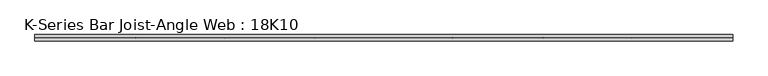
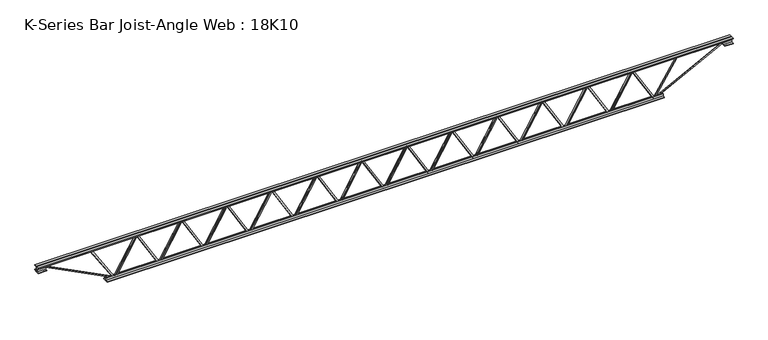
"""IFC4 building model written with IfcOpenShell, lengths in millimetres: beam geometry, K-Series Bar Joist-Angle Web : 18K10."""

from ifc_helpers import new_model, si_unit, frame, origin, place, context, project, spatial, polyline, outline, extrude, faceted_brep, source, transform, mapped, element, save


def k_series_bar_joist_angle_web_18k10_34fe76ac(model_context):
    return source(origin(), model_context, "Body", "SolidModel", [
        extrude(outline(polyline([(-4.75, 4.7625001), (-4.75, 0.0), (-17.45, 0.0), (-17.45, 4.7625001), (-4.75, 4.7625001)])), frame((2639.2791751, 0.0, -190.4), z_axis=(-0.5078245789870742, 0.0, 0.8614605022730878), x_axis=(0.0, -1.0, 0.0)), (0.0, 0.0, 1.0), 442.0399995),
        extrude(outline(polyline([(-225.325, 2671.6590909), (-206.275, 2671.6590909), (-206.275, 2670.7509781), (225.325, 2416.3259781), (225.325, 2398.1840909), (206.275, 2398.1840909), (206.275, 2405.4422037), (-225.325, 2659.8672037), (-225.325, 2671.6590909)])), frame((0.0, 0.0, 0.0), z_axis=(0.0, 1.0, 0.0), x_axis=(0.0, 0.0, 1.0)), (0.0, 0.0, 1.0), 4.75),
        faceted_brep([(2137.4090909, 0.0, -206.275), (2137.4090909, 0.0, -225.325), (2137.4090909, -4.75, -225.325), (2137.4090909, -4.75, -206.275), (2138.3172037, 0.0, -206.275), (2392.7422037, 0.0, 225.325), (2410.8840909, 0.0, 225.325), (2410.8840909, 0.0, 206.275), (2403.6259781, 0.0, 206.275), (2149.2009781, 0.0, -225.325), (2149.2009781, -4.75, -225.325), (2169.7890067, -4.75, -190.4), (2165.686301, -4.75, -187.9814854), (2390.1650777, -4.75, 192.8185146), (2394.2677833, -4.75, 190.4), (2403.6259781, -4.75, 206.275), (2410.8840909, -4.75, 206.275), (2410.8840909, -4.75, 225.325), (2392.7422037, -4.75, 225.325), (2138.3172037, -4.75, -206.275), (2394.2677833, -17.4625, 190.4), (2169.7890067, -17.4625, -190.4), (2165.686301, -17.4625, -187.9814854), (2390.1650777, -17.4625, 192.8185146)], [[[0, 1, 2, 3]], [[1, 0, 4, 5, 6, 7, 8, 9]], [[2, 1, 9, 10]], [[3, 2, 10, 11, 12, 13, 14, 15, 16, 17, 18, 19]], [[0, 3, 19, 4]], [[9, 8, 15, 14, 20, 21, 11, 10]], [[5, 4, 19, 18]], [[7, 6, 17, 16]], [[8, 7, 16, 15]], [[6, 5, 18, 17]], [[21, 22, 12, 11]], [[20, 14, 13, 23]], [[22, 21, 20, 23]], [[12, 22, 23, 13]]]),
        extrude(outline(polyline([(-4.75, 4.7625), (-4.75, 0.0), (-17.45, 0.0), (-17.45, 4.7625), (-4.75, 4.7625)])), frame((2104.9382661, 0.0, -190.4), z_axis=(-0.5078245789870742, 0.0, 0.8614605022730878), x_axis=(0.0, -1.0, 0.0)), (0.0, 0.0, 1.0), 442.0399995),
        extrude(outline(polyline([(-225.325, 2137.3181818), (-206.275, 2137.3181818), (-206.275, 2136.410069), (225.325, 1881.985069), (225.325, 1863.8431818), (206.275, 1863.8431818), (206.275, 1871.1012946), (-225.325, 2125.5262946), (-225.325, 2137.3181818)])), frame((0.0, 0.0, 0.0), z_axis=(0.0, 1.0, 0.0), x_axis=(0.0, 0.0, 1.0)), (0.0, 0.0, 1.0), 4.75),
        faceted_brep([(1603.0681818, 0.0, -206.275), (1603.0681818, 0.0, -225.325), (1603.0681818, -4.75, -225.325), (1603.0681818, -4.75, -206.275), (1603.9762946, 0.0, -206.275), (1858.4012946, 0.0, 225.325), (1876.5431818, 0.0, 225.325), (1876.5431818, 0.0, 206.275), (1869.285069, 0.0, 206.275), (1614.860069, 0.0, -225.325), (1614.860069, -4.75, -225.325), (1635.4480976, -4.75, -190.4), (1631.3453919, -4.75, -187.9814854), (1855.8241686, -4.75, 192.8185146), (1859.9268742, -4.75, 190.4), (1869.285069, -4.75, 206.275), (1876.5431818, -4.75, 206.275), (1876.5431818, -4.75, 225.325), (1858.4012946, -4.75, 225.325), (1603.9762946, -4.75, -206.275), (1859.9268742, -17.4625, 190.4), (1635.4480976, -17.4625, -190.4), (1631.3453919, -17.4625, -187.9814854), (1855.8241686, -17.4625, 192.8185146)], [[[0, 1, 2, 3]], [[1, 0, 4, 5, 6, 7, 8, 9]], [[2, 1, 9, 10]], [[3, 2, 10, 11, 12, 13, 14, 15, 16, 17, 18, 19]], [[0, 3, 19, 4]], [[9, 8, 15, 14, 20, 21, 11, 10]], [[5, 4, 19, 18]], [[7, 6, 17, 16]], [[8, 7, 16, 15]], [[6, 5, 18, 17]], [[21, 22, 12, 11]], [[20, 14, 13, 23]], [[22, 21, 20, 23]], [[12, 22, 23, 13]]]),
        extrude(outline(polyline([(-4.75, 4.7625), (-4.75, 0.0), (-17.45, 0.0), (-17.45, 4.7625), (-4.75, 4.7625)])), frame((1570.597357, 0.0, -190.4), z_axis=(-0.5078245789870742, 0.0, 0.8614605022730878), x_axis=(0.0, -1.0, 0.0)), (0.0, 0.0, 1.0), 442.0399995),
        extrude(outline(polyline([(-225.325, 1602.9772727), (-206.275, 1602.9772727), (-206.275, 1602.0691599), (225.325, 1347.6441599), (225.325, 1329.5022727), (206.275, 1329.5022727), (206.275, 1336.7603855), (-225.325, 1591.1853855), (-225.325, 1602.9772727)])), frame((0.0, 0.0, 0.0), z_axis=(0.0, 1.0, 0.0), x_axis=(0.0, 0.0, 1.0)), (0.0, 0.0, 1.0), 4.75),
        faceted_brep([(1068.7272727, 0.0, -206.275), (1068.7272727, 0.0, -225.325), (1068.7272727, -4.75, -225.325), (1068.7272727, -4.75, -206.275), (1069.6353855, 0.0, -206.275), (1324.0603855, 0.0, 225.325), (1342.2022727, 0.0, 225.325), (1342.2022727, 0.0, 206.275), (1334.9441599, 0.0, 206.275), (1080.5191599, 0.0, -225.325), (1080.5191599, -4.75, -225.325), (1101.1071885, -4.75, -190.4), (1097.0044828, -4.75, -187.9814854), (1321.4832595, -4.75, 192.8185146), (1325.5859651, -4.75, 190.4), (1334.9441599, -4.75, 206.275), (1342.2022727, -4.75, 206.275), (1342.2022727, -4.75, 225.325), (1324.0603855, -4.75, 225.325), (1069.6353855, -4.75, -206.275), (1325.5859651, -17.4625, 190.4), (1101.1071885, -17.4625, -190.4), (1097.0044828, -17.4625, -187.9814854), (1321.4832595, -17.4625, 192.8185146)], [[[0, 1, 2, 3]], [[1, 0, 4, 5, 6, 7, 8, 9]], [[2, 1, 9, 10]], [[3, 2, 10, 11, 12, 13, 14, 15, 16, 17, 18, 19]], [[0, 3, 19, 4]], [[9, 8, 15, 14, 20, 21, 11, 10]], [[5, 4, 19, 18]], [[7, 6, 17, 16]], [[8, 7, 16, 15]], [[6, 5, 18, 17]], [[21, 22, 12, 11]], [[20, 14, 13, 23]], [[22, 21, 20, 23]], [[12, 22, 23, 13]]]),
        extrude(outline(polyline([(-4.75, 4.7625), (-4.75, 0.0), (-17.45, 0.0), (-17.45, 4.7625), (-4.75, 4.7625)])), frame((1036.2564479, 0.0, -190.4), z_axis=(-0.5078245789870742, 0.0, 0.8614605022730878), x_axis=(0.0, -1.0, 0.0)), (0.0, 0.0, 1.0), 442.0399995),
        extrude(outline(polyline([(-225.325, 1068.6363636), (-206.275, 1068.6363636), (-206.275, 1067.7282508), (225.325, 813.3032508), (225.325, 795.1613636), (206.275, 795.1613636), (206.275, 802.4194764), (-225.325, 1056.8444764), (-225.325, 1068.6363636)])), frame((0.0, 0.0, 0.0), z_axis=(0.0, 1.0, 0.0), x_axis=(0.0, 0.0, 1.0)), (0.0, 0.0, 1.0), 4.75),
        faceted_brep([(534.3863636, 0.0, -206.275), (534.3863636, 0.0, -225.325), (534.3863636, -4.75, -225.325), (534.3863636, -4.75, -206.275), (535.2944764, 0.0, -206.275), (789.7194764, 0.0, 225.325), (807.8613636, 0.0, 225.325), (807.8613636, 0.0, 206.275), (800.6032508, 0.0, 206.275), (546.1782508, 0.0, -225.325), (546.1782508, -4.75, -225.325), (566.7662794, -4.75, -190.4), (562.6635738, -4.75, -187.9814854), (787.1423504, -4.75, 192.8185146), (791.245056, -4.75, 190.4), (800.6032508, -4.75, 206.275), (807.8613636, -4.75, 206.275), (807.8613636, -4.75, 225.325), (789.7194764, -4.75, 225.325), (535.2944764, -4.75, -206.275), (791.245056, -17.4625, 190.4), (566.7662794, -17.4625, -190.4), (562.6635738, -17.4625, -187.9814854), (787.1423504, -17.4625, 192.8185146)], [[[0, 1, 2, 3]], [[1, 0, 4, 5, 6, 7, 8, 9]], [[2, 1, 9, 10]], [[3, 2, 10, 11, 12, 13, 14, 15, 16, 17, 18, 19]], [[0, 3, 19, 4]], [[9, 8, 15, 14, 20, 21, 11, 10]], [[5, 4, 19, 18]], [[7, 6, 17, 16]], [[8, 7, 16, 15]], [[6, 5, 18, 17]], [[21, 22, 12, 11]], [[20, 14, 13, 23]], [[22, 21, 20, 23]], [[12, 22, 23, 13]]]),
        extrude(outline(polyline([(-4.75, 4.7625), (-4.75, 0.0), (-17.45, 0.0), (-17.45, 4.7625), (-4.75, 4.7625)])), frame((501.9155388, 0.0, -190.4), z_axis=(-0.5078245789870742, 0.0, 0.8614605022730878), x_axis=(0.0, -1.0, 0.0)), (0.0, 0.0, 1.0), 442.0399995),
        extrude(outline(polyline([(-225.325, 534.2954545), (-206.275, 534.2954545), (-206.275, 533.3873418), (225.325, 278.9623418), (225.325, 260.8204545), (206.275, 260.8204545), (206.275, 268.0785673), (-225.325, 522.5035673), (-225.325, 534.2954545)])), frame((0.0, 0.0, 0.0), z_axis=(0.0, 1.0, 0.0), x_axis=(0.0, 0.0, 1.0)), (0.0, 0.0, 1.0), 4.75),
        faceted_brep([(0.0454545, 0.0, -206.275), (0.0454545, 0.0, -225.325), (0.0454545, -4.75, -225.325), (0.0454545, -4.75, -206.275), (0.9535673, 0.0, -206.275), (255.3785673, 0.0, 225.325), (273.5204545, 0.0, 225.325), (273.5204545, 0.0, 206.275), (266.2623418, 0.0, 206.275), (11.8373418, 0.0, -225.325), (11.8373418, -4.75, -225.325), (32.4253703, -4.75, -190.4), (28.3226647, -4.75, -187.9814854), (252.8014413, -4.75, 192.8185146), (256.904147, -4.75, 190.4), (266.2623418, -4.75, 206.275), (273.5204545, -4.75, 206.275), (273.5204545, -4.75, 225.325), (255.3785673, -4.75, 225.325), (0.9535673, -4.75, -206.275), (256.904147, -17.4625, 190.4), (32.4253703, -17.4625, -190.4), (28.3226647, -17.4625, -187.9814854), (252.8014413, -17.4625, 192.8185146)], [[[0, 1, 2, 3]], [[1, 0, 4, 5, 6, 7, 8, 9]], [[2, 1, 9, 10]], [[3, 2, 10, 11, 12, 13, 14, 15, 16, 17, 18, 19]], [[0, 3, 19, 4]], [[9, 8, 15, 14, 20, 21, 11, 10]], [[5, 4, 19, 18]], [[7, 6, 17, 16]], [[8, 7, 16, 15]], [[6, 5, 18, 17]], [[21, 22, 12, 11]], [[20, 14, 13, 23]], [[22, 21, 20, 23]], [[12, 22, 23, 13]]]),
        extrude(outline(polyline([(-4.75, 4.7625), (-4.75, 0.0), (-17.45, 0.0), (-17.45, 4.7625), (-4.75, 4.7625)])), frame((-32.4253703, 0.0, -190.4), z_axis=(-0.5078245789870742, 0.0, 0.8614605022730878), x_axis=(0.0, -1.0, 0.0)), (0.0, 0.0, 1.0), 442.0399995),
        extrude(outline(polyline([(-225.325, -0.0454545), (-206.275, -0.0454545), (-206.275, -0.9535673), (225.325, -255.3785673), (225.325, -273.5204545), (206.275, -273.5204545), (206.275, -266.2623418), (-225.325, -11.8373418), (-225.325, -0.0454545)])), frame((0.0, 0.0, 0.0), z_axis=(0.0, 1.0, 0.0), x_axis=(0.0, 0.0, 1.0)), (0.0, 0.0, 1.0), 4.75),
        faceted_brep([(-534.2954545, 0.0, -206.275), (-534.2954545, 0.0, -225.325), (-534.2954545, -4.75, -225.325), (-534.2954545, -4.75, -206.275), (-533.3873418, 0.0, -206.275), (-278.9623418, 0.0, 225.325), (-260.8204545, 0.0, 225.325), (-260.8204545, 0.0, 206.275), (-268.0785673, 0.0, 206.275), (-522.5035673, 0.0, -225.325), (-522.5035673, -4.75, -225.325), (-501.9155388, -4.75, -190.4), (-506.0182444, -4.75, -187.9814854), (-281.5394678, -4.75, 192.8185146), (-277.4367621, -4.75, 190.4), (-268.0785673, -4.75, 206.275), (-260.8204545, -4.75, 206.275), (-260.8204545, -4.75, 225.325), (-278.9623418, -4.75, 225.325), (-533.3873418, -4.75, -206.275), (-277.4367621, -17.4625, 190.4), (-501.9155388, -17.4625, -190.4), (-506.0182444, -17.4625, -187.9814854), (-281.5394678, -17.4625, 192.8185146)], [[[0, 1, 2, 3]], [[1, 0, 4, 5, 6, 7, 8, 9]], [[2, 1, 9, 10]], [[3, 2, 10, 11, 12, 13, 14, 15, 16, 17, 18, 19]], [[0, 3, 19, 4]], [[9, 8, 15, 14, 20, 21, 11, 10]], [[5, 4, 19, 18]], [[7, 6, 17, 16]], [[8, 7, 16, 15]], [[6, 5, 18, 17]], [[21, 22, 12, 11]], [[20, 14, 13, 23]], [[22, 21, 20, 23]], [[12, 22, 23, 13]]]),
        extrude(outline(polyline([(-4.75, 4.7625), (-4.75, 0.0), (-17.45, 0.0), (-17.45, 4.7625), (-4.75, 4.7625)])), frame((-566.7662794, 0.0, -190.4), z_axis=(-0.5078245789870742, 0.0, 0.8614605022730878), x_axis=(0.0, -1.0, 0.0)), (0.0, 0.0, 1.0), 442.0399995),
        extrude(outline(polyline([(-225.325, -534.3863636), (-206.275, -534.3863636), (-206.275, -535.2944764), (225.325, -789.7194764), (225.325, -807.8613636), (206.275, -807.8613636), (206.275, -800.6032508), (-225.325, -546.1782508), (-225.325, -534.3863636)])), frame((0.0, 0.0, 0.0), z_axis=(0.0, 1.0, 0.0), x_axis=(0.0, 0.0, 1.0)), (0.0, 0.0, 1.0), 4.75),
        faceted_brep([(-1068.6363636, 0.0, -206.275), (-1068.6363636, 0.0, -225.325), (-1068.6363636, -4.75, -225.325), (-1068.6363636, -4.75, -206.275), (-1067.7282508, 0.0, -206.275), (-813.3032508, 0.0, 225.325), (-795.1613636, 0.0, 225.325), (-795.1613636, 0.0, 206.275), (-802.4194764, 0.0, 206.275), (-1056.8444764, 0.0, -225.325), (-1056.8444764, -4.75, -225.325), (-1036.2564479, -4.75, -190.4), (-1040.3591535, -4.75, -187.9814854), (-815.8803769, -4.75, 192.8185146), (-811.7776712, -4.75, 190.4), (-802.4194764, -4.75, 206.275), (-795.1613636, -4.75, 206.275), (-795.1613636, -4.75, 225.325), (-813.3032508, -4.75, 225.325), (-1067.7282508, -4.75, -206.275), (-811.7776712, -17.4625, 190.4), (-1036.2564479, -17.4625, -190.4), (-1040.3591535, -17.4625, -187.9814854), (-815.8803769, -17.4625, 192.8185146)], [[[0, 1, 2, 3]], [[1, 0, 4, 5, 6, 7, 8, 9]], [[2, 1, 9, 10]], [[3, 2, 10, 11, 12, 13, 14, 15, 16, 17, 18, 19]], [[0, 3, 19, 4]], [[9, 8, 15, 14, 20, 21, 11, 10]], [[5, 4, 19, 18]], [[7, 6, 17, 16]], [[8, 7, 16, 15]], [[6, 5, 18, 17]], [[21, 22, 12, 11]], [[20, 14, 13, 23]], [[22, 21, 20, 23]], [[12, 22, 23, 13]]]),
        extrude(outline(polyline([(-4.75, 4.7625001), (-4.75, 0.0), (-17.45, 0.0), (-17.45, 4.7625001), (-4.75, 4.7625001)])), frame((-1101.1071885, 0.0, -190.4), z_axis=(-0.5078245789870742, 0.0, 0.8614605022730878), x_axis=(0.0, -1.0, 0.0)), (0.0, 0.0, 1.0), 442.0399995),
        extrude(outline(polyline([(-225.325, -1068.7272727), (-206.275, -1068.7272727), (-206.275, -1069.6353855), (225.325, -1324.0603855), (225.325, -1342.2022727), (206.275, -1342.2022727), (206.275, -1334.9441599), (-225.325, -1080.5191599), (-225.325, -1068.7272727)])), frame((0.0, 0.0, 0.0), z_axis=(0.0, 1.0, 0.0), x_axis=(0.0, 0.0, 1.0)), (0.0, 0.0, 1.0), 4.75),
        faceted_brep([(-1602.9772727, 0.0, -206.275), (-1602.9772727, 0.0, -225.325), (-1602.9772727, -4.75, -225.325), (-1602.9772727, -4.75, -206.275), (-1602.0691599, 0.0, -206.275), (-1347.6441599, 0.0, 225.325), (-1329.5022727, 0.0, 225.325), (-1329.5022727, 0.0, 206.275), (-1336.7603855, 0.0, 206.275), (-1591.1853855, 0.0, -225.325), (-1591.1853855, -4.75, -225.325), (-1570.597357, -4.75, -190.4), (-1574.7000626, -4.75, -187.9814854), (-1350.221286, -4.75, 192.8185146), (-1346.1185803, -4.75, 190.4), (-1336.7603855, -4.75, 206.275), (-1329.5022727, -4.75, 206.275), (-1329.5022727, -4.75, 225.325), (-1347.6441599, -4.75, 225.325), (-1602.0691599, -4.75, -206.275), (-1346.1185803, -17.4625, 190.4), (-1570.597357, -17.4625, -190.4), (-1574.7000626, -17.4625, -187.9814854), (-1350.221286, -17.4625, 192.8185146)], [[[0, 1, 2, 3]], [[1, 0, 4, 5, 6, 7, 8, 9]], [[2, 1, 9, 10]], [[3, 2, 10, 11, 12, 13, 14, 15, 16, 17, 18, 19]], [[0, 3, 19, 4]], [[9, 8, 15, 14, 20, 21, 11, 10]], [[5, 4, 19, 18]], [[7, 6, 17, 16]], [[8, 7, 16, 15]], [[6, 5, 18, 17]], [[21, 22, 12, 11]], [[20, 14, 13, 23]], [[22, 21, 20, 23]], [[12, 22, 23, 13]]]),
        extrude(outline(polyline([(-4.75, 4.7625001), (-4.75, 0.0), (-17.45, 0.0), (-17.45, 4.7625001), (-4.75, 4.7625001)])), frame((-1635.4480976, 0.0, -190.4), z_axis=(-0.5078245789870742, 0.0, 0.8614605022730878), x_axis=(0.0, -1.0, 0.0)), (0.0, 0.0, 1.0), 442.0399995),
        extrude(outline(polyline([(-225.325, -1603.0681818), (-206.275, -1603.0681818), (-206.275, -1603.9762946), (225.325, -1858.4012946), (225.325, -1876.5431818), (206.275, -1876.5431818), (206.275, -1869.285069), (-225.325, -1614.860069), (-225.325, -1603.0681818)])), frame((0.0, 0.0, 0.0), z_axis=(0.0, 1.0, 0.0), x_axis=(0.0, 0.0, 1.0)), (0.0, 0.0, 1.0), 4.75),
        faceted_brep([(-2137.3181818, 0.0, -206.275), (-2137.3181818, 0.0, -225.325), (-2137.3181818, -4.75, -225.325), (-2137.3181818, -4.75, -206.275), (-2136.410069, 0.0, -206.275), (-1881.985069, 0.0, 225.325), (-1863.8431818, 0.0, 225.325), (-1863.8431818, 0.0, 206.275), (-1871.1012946, 0.0, 206.275), (-2125.5262946, 0.0, -225.325), (-2125.5262946, -4.75, -225.325), (-2104.9382661, -4.75, -190.4), (-2109.0409717, -4.75, -187.9814854), (-1884.5621951, -4.75, 192.8185146), (-1880.4594894, -4.75, 190.4), (-1871.1012946, -4.75, 206.275), (-1863.8431818, -4.75, 206.275), (-1863.8431818, -4.75, 225.325), (-1881.985069, -4.75, 225.325), (-2136.410069, -4.75, -206.275), (-1880.4594894, -17.4625, 190.4), (-2104.9382661, -17.4625, -190.4), (-2109.0409717, -17.4625, -187.9814854), (-1884.5621951, -17.4625, 192.8185146)], [[[0, 1, 2, 3]], [[1, 0, 4, 5, 6, 7, 8, 9]], [[2, 1, 9, 10]], [[3, 2, 10, 11, 12, 13, 14, 15, 16, 17, 18, 19]], [[0, 3, 19, 4]], [[9, 8, 15, 14, 20, 21, 11, 10]], [[5, 4, 19, 18]], [[7, 6, 17, 16]], [[8, 7, 16, 15]], [[6, 5, 18, 17]], [[21, 22, 12, 11]], [[20, 14, 13, 23]], [[22, 21, 20, 23]], [[12, 22, 23, 13]]]),
        extrude(outline(polyline([(-4.75, 4.7625001), (-4.75, 0.0), (-17.45, 0.0), (-17.45, 4.7625001), (-4.75, 4.7625001)])), frame((-2169.7890067, 0.0, -190.4), z_axis=(-0.5078245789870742, 0.0, 0.8614605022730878), x_axis=(0.0, -1.0, 0.0)), (0.0, 0.0, 1.0), 442.0399995),
        extrude(outline(polyline([(-225.325, -2137.4090909), (-206.275, -2137.4090909), (-206.275, -2138.3172037), (225.325, -2392.7422037), (225.325, -2410.8840909), (206.275, -2410.8840909), (206.275, -2403.6259781), (-225.325, -2149.2009781), (-225.325, -2137.4090909)])), frame((0.0, 0.0, 0.0), z_axis=(0.0, 1.0, 0.0), x_axis=(0.0, 0.0, 1.0)), (0.0, 0.0, 1.0), 4.75),
        faceted_brep([(-2671.6590909, 0.0, -206.275), (-2671.6590909, 0.0, -225.325), (-2671.6590909, -4.75, -225.325), (-2671.6590909, -4.75, -206.275), (-2670.7509781, 0.0, -206.275), (-2416.3259781, 0.0, 225.325), (-2398.1840909, 0.0, 225.325), (-2398.1840909, 0.0, 206.275), (-2405.4422037, 0.0, 206.275), (-2659.8672037, 0.0, -225.325), (-2659.8672037, -4.75, -225.325), (-2639.2791751, -4.75, -190.4), (-2643.3818808, -4.75, -187.9814854), (-2418.9031041, -4.75, 192.8185146), (-2414.8003985, -4.75, 190.4), (-2405.4422037, -4.75, 206.275), (-2398.1840909, -4.75, 206.275), (-2398.1840909, -4.75, 225.325), (-2416.3259781, -4.75, 225.325), (-2670.7509781, -4.75, -206.275), (-2414.8003985, -17.4625, 190.4), (-2639.2791751, -17.4625, -190.4), (-2643.3818808, -17.4625, -187.9814854), (-2418.9031041, -17.4625, 192.8185146)], [[[0, 1, 2, 3]], [[1, 0, 4, 5, 6, 7, 8, 9]], [[2, 1, 9, 10]], [[3, 2, 10, 11, 12, 13, 14, 15, 16, 17, 18, 19]], [[0, 3, 19, 4]], [[9, 8, 15, 14, 20, 21, 11, 10]], [[5, 4, 19, 18]], [[7, 6, 17, 16]], [[8, 7, 16, 15]], [[6, 5, 18, 17]], [[21, 22, 12, 11]], [[20, 14, 13, 23]], [[22, 21, 20, 23]], [[12, 22, 23, 13]]]),
        extrude(outline(polyline([(-4.75, 4.7625001), (-4.75, 0.0), (-17.45, 0.0), (-17.45, 4.7625001), (-4.75, 4.7625001)])), frame((3173.6200842, 0.0, -190.4), z_axis=(-0.5078245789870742, 0.0, 0.8614605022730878), x_axis=(0.0, -1.0, 0.0)), (0.0, 0.0, 1.0), 442.0399995),
        extrude(outline(polyline([(-225.325, 3206.0), (-206.275, 3206.0), (-206.275, 3205.0918872), (225.325, 2950.6668872), (225.325, 2932.525), (206.275, 2932.525), (206.275, 2939.7831128), (-225.325, 3194.2081128), (-225.325, 3206.0)])), frame((0.0, 0.0, 0.0), z_axis=(0.0, 1.0, 0.0), x_axis=(0.0, 0.0, 1.0)), (0.0, 0.0, 1.0), 4.75),
        faceted_brep([(2671.75, 0.0, -206.275), (2671.75, 0.0, -225.325), (2671.75, -4.75, -225.325), (2671.75, -4.75, -206.275), (2672.6581128, 0.0, -206.275), (2927.0831128, 0.0, 225.325), (2945.225, 0.0, 225.325), (2945.225, 0.0, 206.275), (2937.9668872, 0.0, 206.275), (2683.5418872, 0.0, -225.325), (2683.5418872, -4.75, -225.325), (2704.1299158, -4.75, -190.4), (2700.0272101, -4.75, -187.9814854), (2924.5059868, -4.75, 192.8185146), (2928.6086924, -4.75, 190.4), (2937.9668872, -4.75, 206.275), (2945.225, -4.75, 206.275), (2945.225, -4.75, 225.325), (2927.0831128, -4.75, 225.325), (2672.6581128, -4.75, -206.275), (2928.6086924, -17.4625, 190.4), (2704.1299158, -17.4625, -190.4), (2700.0272101, -17.4625, -187.9814854), (2924.5059868, -17.4625, 192.8185146)], [[[0, 1, 2, 3]], [[1, 0, 4, 5, 6, 7, 8, 9]], [[2, 1, 9, 10]], [[3, 2, 10, 11, 12, 13, 14, 15, 16, 17, 18, 19]], [[0, 3, 19, 4]], [[9, 8, 15, 14, 20, 21, 11, 10]], [[5, 4, 19, 18]], [[7, 6, 17, 16]], [[8, 7, 16, 15]], [[6, 5, 18, 17]], [[21, 22, 12, 11]], [[20, 14, 13, 23]], [[22, 21, 20, 23]], [[12, 22, 23, 13]]]),
        extrude(outline(polyline([(-4.75, 4.7625001), (-4.75, 0.0), (-17.45, 0.0), (-17.45, 4.7625001), (-4.75, 4.7625001)])), frame((-2704.1299158, 0.0, -190.4), z_axis=(-0.5078245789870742, 0.0, 0.8614605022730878), x_axis=(0.0, -1.0, 0.0)), (0.0, 0.0, 1.0), 442.0399995),
        extrude(outline(polyline([(-225.325, -2671.75), (-206.275, -2671.75), (-206.275, -2672.6581128), (225.325, -2927.0831128), (225.325, -2945.225), (206.275, -2945.225), (206.275, -2937.9668872), (-225.325, -2683.5418872), (-225.325, -2671.75)])), frame((0.0, 0.0, 0.0), z_axis=(0.0, 1.0, 0.0), x_axis=(0.0, 0.0, 1.0)), (0.0, 0.0, 1.0), 4.75),
        faceted_brep([(-3206.0, 0.0, -206.275), (-3206.0, 0.0, -225.325), (-3206.0, -4.75, -225.325), (-3206.0, -4.75, -206.275), (-3205.0918872, 0.0, -206.275), (-2950.6668872, 0.0, 225.325), (-2932.525, 0.0, 225.325), (-2932.525, 0.0, 206.275), (-2939.7831128, 0.0, 206.275), (-3194.2081128, 0.0, -225.325), (-3194.2081128, -4.75, -225.325), (-3173.6200842, -4.75, -190.4), (-3177.7227899, -4.75, -187.9814854), (-2953.2440132, -4.75, 192.8185146), (-2949.1413076, -4.75, 190.4), (-2939.7831128, -4.75, 206.275), (-2932.525, -4.75, 206.275), (-2932.525, -4.75, 225.325), (-2950.6668872, -4.75, 225.325), (-3205.0918872, -4.75, -206.275), (-2949.1413076, -17.4625, 190.4), (-3173.6200842, -17.4625, -190.4), (-3177.7227899, -17.4625, -187.9814854), (-2953.2440132, -17.4625, 192.8185146)], [[[0, 1, 2, 3]], [[1, 0, 4, 5, 6, 7, 8, 9]], [[2, 1, 9, 10]], [[3, 2, 10, 11, 12, 13, 14, 15, 16, 17, 18, 19]], [[0, 3, 19, 4]], [[9, 8, 15, 14, 20, 21, 11, 10]], [[5, 4, 19, 18]], [[7, 6, 17, 16]], [[8, 7, 16, 15]], [[6, 5, 18, 17]], [[21, 22, 12, 11]], [[20, 14, 13, 23]], [[22, 21, 20, 23]], [[12, 22, 23, 13]]]),
        extrude(outline(polyline([(4.75, 228.5), (36.75, 228.5), (36.75, 222.0), (11.25, 222.0), (11.25, 196.5), (4.75, 196.5), (4.75, 228.5)])), frame((-4120.0, 0.0, 0.0), z_axis=(1.0, 0.0, 0.0), x_axis=(0.0, 1.0, 0.0)), (0.0, 0.0, 1.0), 8240.0),
        extrude(outline(polyline([(-4.75, 228.5), (-4.75, 196.5), (-11.25, 196.5), (-11.25, 222.0), (-36.75, 222.0), (-36.75, 228.5), (-4.75, 228.5)])), frame((-4120.0, 0.0, 0.0), z_axis=(1.0, 0.0, 0.0), x_axis=(0.0, 1.0, 0.0)), (0.0, 0.0, 1.0), 8240.0),
        extrude(outline(polyline([(4.75, -228.5), (4.75, -196.5), (11.25, -196.5), (11.25, -222.0), (36.75, -222.0), (36.75, -228.5), (4.75, -228.5)])), frame((-3306.0, 0.0, 0.0), z_axis=(1.0, 0.0, 0.0), x_axis=(0.0, 1.0, 0.0)), (0.0, 0.0, 1.0), 6612.0),
        extrude(outline(polyline([(-4.75, -228.5), (-36.75, -228.5), (-36.75, -222.0), (-11.25, -222.0), (-11.25, -196.5), (-4.75, -196.5), (-4.75, -228.5)])), frame((-3306.0, 0.0, 0.0), z_axis=(1.0, 0.0, 0.0), x_axis=(0.0, 1.0, 0.0)), (0.0, 0.0, 1.0), 6612.0),
        extrude(outline(polyline([(4.75, 165.0), (4.75, 196.5), (11.25, 196.5), (11.25, 171.5), (36.75, 171.5), (36.75, 165.0), (4.75, 165.0)])), frame((4020.0, 0.0, 0.0), z_axis=(1.0, 0.0, 0.0), x_axis=(0.0, 1.0, 0.0)), (0.0, 0.0, 1.0), 100.0),
        extrude(outline(polyline([(-4.75, 165.0), (-36.75, 165.0), (-36.75, 171.5), (-11.25, 171.5), (-11.25, 196.5), (-4.75, 196.5), (-4.75, 165.0)])), frame((4020.0, 0.0, 0.0), z_axis=(1.0, 0.0, 0.0), x_axis=(0.0, 1.0, 0.0)), (0.0, 0.0, 1.0), 100.0),
        extrude(outline(polyline([(-4.75, 165.0), (-36.75, 165.0), (-36.75, 171.5), (-11.25, 171.5), (-11.25, 196.5), (-4.75, 196.5), (-4.75, 165.0)])), frame((-4120.0, 0.0, 0.0), z_axis=(1.0, 0.0, 0.0), x_axis=(0.0, 1.0, 0.0)), (0.0, 0.0, 1.0), 100.0),
        extrude(outline(polyline([(36.75, 165.0), (4.75, 165.0), (4.75, 196.5), (11.25, 196.5), (11.25, 171.5), (36.75, 171.5), (36.75, 165.0)])), frame((-4120.0, 0.0, 0.0), z_axis=(1.0, 0.0, 0.0), x_axis=(0.0, 1.0, 0.0)), (0.0, 0.0, 1.0), 100.0),
        extrude(outline(polyline([(219.4566712, -3493.0821429), (200.4066712, -3493.0821429), (200.4066712, -3485.3490855), (-227.0017127, -3213.6316891), (-216.7814576, -3197.5553436), (219.4566712, -3474.8860957), (219.4566712, -3493.0821429)])), frame((0.0, 0.0, 0.0), z_axis=(0.0, 1.0, 0.0), x_axis=(0.0, 0.0, 1.0)), (0.0, 0.0, 1.0), 4.7625),
        extrude(outline(polyline([(-4.7625, -10.5646146), (-4.7625, 8.4853853), (0.0, 8.4853853), (0.0, -10.5646146), (-4.7625, -10.5646146)])), frame((3206.0, 0.0, -222.15), z_axis=(0.537894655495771, 0.0, 0.8430120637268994), x_axis=(0.0, -1.0, 0.0)), (0.0, 0.0, 1.0), 496.6121103),
        extrude(outline(polyline([(-226.3740718, -3208.172491), (-217.9259282, -3203.827509), (201.25, -4018.8500948), (201.25, -4120.0), (191.75, -4120.0), (191.75, -4021.1499052), (-226.3740718, -3208.172491)])), frame((0.0, -4.75, 0.0), z_axis=(0.0, 1.0, 0.0), x_axis=(0.0, 0.0, 1.0)), (0.0, 0.0, 1.0), 9.5),
        extrude(outline(polyline([(0.0, -9.5), (0.0, 0.0), (915.3490168, 0.0), (915.3490168, -9.5), (0.0, -9.5)])), frame((4022.172491, -4.75, 192.2759282), z_axis=(-0.4573665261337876, 0.0, 0.8892782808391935), x_axis=(-0.8892782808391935, 0.0, -0.4573665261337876)), (0.0, 0.0, 1.0), 9.5),
    ])


if __name__ == "__main__":
    model = new_model("IFC4")
    model_context = context("Model", 3, world=origin())
    ifc_project = project(units=[si_unit("LENGTHUNIT", "METRE", prefix="MILLI")], contexts=[model_context])
    site = spatial("IfcSite", under=ifc_project)
    building = spatial("IfcBuilding", under=site)
    placement = place(None, origin())
    k_series_bar_joist_angle_web_18k10_shape = k_series_bar_joist_angle_web_18k10_34fe76ac(model_context)
    element("IfcBeam", 1, ObjectType="K-Series Bar Joist-Angle Web : 18K10", at=placement, inside=building, context=model_context, shape_type="MappedRepresentation", body=[
        mapped(k_series_bar_joist_angle_web_18k10_shape, transform((0.0, 0.0, 0.0), x_axis=(1.0, 0.0, 0.0), y_axis=(0.0, 1.0, 0.0), z_axis=(0.0, 0.0, 1.0))),
    ])
    save(model, "model.ifc")
